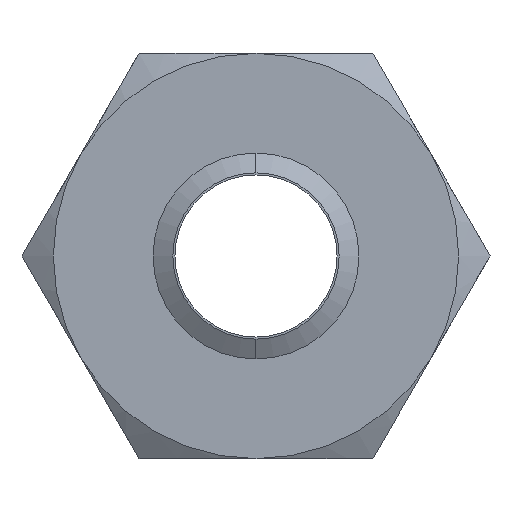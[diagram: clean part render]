
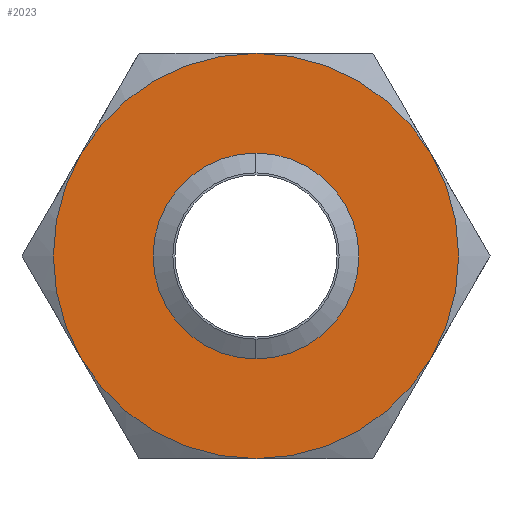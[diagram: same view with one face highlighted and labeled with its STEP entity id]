
A CAD part, front view. The second image highlights one B-rep face of the part: STEP entity #2023.
In plain terms, the highlighted planar face has unit normal (0, -1, 0).
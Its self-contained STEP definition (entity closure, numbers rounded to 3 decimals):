
#51 = VERTEX_POINT ( 'NONE', #436 ) ;
#52 = VERTEX_POINT ( 'NONE', #435 ) ;
#137 = EDGE_CURVE ( 'NONE', #51, #52, #485, .T. ) ;
#435 = CARTESIAN_POINT ( 'NONE',  ( 0., 0., 15.387 ) ) ;
#436 = CARTESIAN_POINT ( 'NONE',  ( 0., 0., -15.387 ) ) ;
#478 = DIRECTION ( 'NONE',  ( 0., 0., -1. ) ) ;
#479 = DIRECTION ( 'NONE',  ( 0., -1., 0. ) ) ;
#480 = CARTESIAN_POINT ( 'NONE',  ( 0., 0., 0. ) ) ;
#481 = AXIS2_PLACEMENT_3D ( 'NONE', #480, #479, #478 ) ;
#485 = CIRCLE ( 'NONE', #481, 15.387 ) ;
#1143 = CARTESIAN_POINT ( 'NONE',  ( 0., 0., 0. ) ) ;
#1165 = DIRECTION ( 'NONE',  ( 0., 0., 1. ) ) ;
#1166 = DIRECTION ( 'NONE',  ( 0., 1., 0. ) ) ;
#1167 = CARTESIAN_POINT ( 'NONE',  ( 0., 0., 0. ) ) ;
#1168 = AXIS2_PLACEMENT_3D ( 'NONE', #1167, #1166, #1165 ) ;
#1169 = CIRCLE ( 'NONE', #1168, 37.5 ) ;
#1184 = DIRECTION ( 'NONE',  ( 0., 0., 1. ) ) ;
#1185 = DIRECTION ( 'NONE',  ( 0., 1., 0. ) ) ;
#1186 = AXIS2_PLACEMENT_3D ( 'NONE', #1143, #1185, #1184 ) ;
#1187 = CIRCLE ( 'NONE', #1186, 37.5 ) ;
#1226 = CARTESIAN_POINT ( 'NONE',  ( 32.476, 0., -18.75 ) ) ;
#1227 = DIRECTION ( 'NONE',  ( 0., 0., 1. ) ) ;
#1228 = DIRECTION ( 'NONE',  ( 0., 1., 0. ) ) ;
#1229 = CARTESIAN_POINT ( 'NONE',  ( 0., 0., 0. ) ) ;
#1230 = AXIS2_PLACEMENT_3D ( 'NONE', #1229, #1228, #1227 ) ;
#1231 = CIRCLE ( 'NONE', #1230, 37.5 ) ;
#1244 = CARTESIAN_POINT ( 'NONE',  ( 0., 0., -37.5 ) ) ;
#1264 = DIRECTION ( 'NONE',  ( 0., 1., 0. ) ) ;
#1265 = AXIS2_PLACEMENT_3D ( 'NONE', #1267, #1264, #1310 ) ;
#1266 = CIRCLE ( 'NONE', #1265, 37.5 ) ;
#1267 = CARTESIAN_POINT ( 'NONE',  ( 0., 0., 0. ) ) ;
#1309 = CARTESIAN_POINT ( 'NONE',  ( -32.476, 0., -18.75 ) ) ;
#1310 = DIRECTION ( 'NONE',  ( 0., 0., 1. ) ) ;
#1369 = DIRECTION ( 'NONE',  ( 0., 0., -1. ) ) ;
#1370 = DIRECTION ( 'NONE',  ( 0., -1., 0. ) ) ;
#1371 = CARTESIAN_POINT ( 'NONE',  ( 0., 0., 0. ) ) ;
#1372 = AXIS2_PLACEMENT_3D ( 'NONE', #1371, #1370, #1369 ) ;
#1373 = CIRCLE ( 'NONE', #1372, 15.387 ) ;
#1374 = CARTESIAN_POINT ( 'NONE',  ( 32.476, 0., 18.75 ) ) ;
#1375 = DIRECTION ( 'NONE',  ( 0., 0., 1. ) ) ;
#1376 = DIRECTION ( 'NONE',  ( 0., 1., 0. ) ) ;
#1377 = CARTESIAN_POINT ( 'NONE',  ( 0., 0., 0. ) ) ;
#1378 = AXIS2_PLACEMENT_3D ( 'NONE', #1377, #1376, #1375 ) ;
#1379 = CIRCLE ( 'NONE', #1378, 37.5 ) ;
#1407 = DIRECTION ( 'NONE',  ( 0., 0., 1. ) ) ;
#1408 = DIRECTION ( 'NONE',  ( 0., 1., 0. ) ) ;
#1409 = CARTESIAN_POINT ( 'NONE',  ( 0., 0., 0. ) ) ;
#1410 = AXIS2_PLACEMENT_3D ( 'NONE', #1409, #1408, #1407 ) ;
#1411 = CIRCLE ( 'NONE', #1410, 37.5 ) ;
#1412 = DIRECTION ( 'NONE',  ( 0., 0., 1. ) ) ;
#1413 = DIRECTION ( 'NONE',  ( 0., 1., 0. ) ) ;
#1414 = CARTESIAN_POINT ( 'NONE',  ( 21.651, 0., -37.5 ) ) ;
#1416 = AXIS2_PLACEMENT_3D ( 'NONE', #1414, #1413, #1412 ) ;
#1417 = PLANE ( 'NONE',  #1416 ) ;
#1418 = FACE_BOUND ( 'NONE', #2010, .T. ) ;
#1419 = FACE_OUTER_BOUND ( 'NONE', #2032, .T. ) ;
#1431 = CARTESIAN_POINT ( 'NONE',  ( 0., 0., 37.5 ) ) ;
#1432 = CARTESIAN_POINT ( 'NONE',  ( -32.476, 0., 18.75 ) ) ;
#1915 = ORIENTED_EDGE ( 'NONE', *, *, #1934, .F. ) ;
#1934 = EDGE_CURVE ( 'NONE', #1973, #2017, #1187, .T. ) ;
#1939 = EDGE_CURVE ( 'NONE', #2017, #2018, #1169, .T. ) ;
#1955 = VERTEX_POINT ( 'NONE', #1244 ) ;
#1957 = EDGE_CURVE ( 'NONE', #1959, #1955, #1231, .T. ) ;
#1958 = ORIENTED_EDGE ( 'NONE', *, *, #1957, .F. ) ;
#1959 = VERTEX_POINT ( 'NONE', #1226 ) ;
#1968 = ORIENTED_EDGE ( 'NONE', *, *, #1972, .F. ) ;
#1972 = EDGE_CURVE ( 'NONE', #1955, #1973, #1266, .T. ) ;
#1973 = VERTEX_POINT ( 'NONE', #1309 ) ;
#2008 = ORIENTED_EDGE ( 'NONE', *, *, #2009, .F. ) ;
#2009 = EDGE_CURVE ( 'NONE', #2015, #1959, #1379, .T. ) ;
#2010 = EDGE_LOOP ( 'NONE', ( #2011, #2012 ) ) ;
#2011 = ORIENTED_EDGE ( 'NONE', *, *, #137, .F. ) ;
#2012 = ORIENTED_EDGE ( 'NONE', *, *, #2013, .F. ) ;
#2013 = EDGE_CURVE ( 'NONE', #52, #51, #1373, .T. ) ;
#2015 = VERTEX_POINT ( 'NONE', #1374 ) ;
#2016 = ORIENTED_EDGE ( 'NONE', *, *, #1939, .F. ) ;
#2017 = VERTEX_POINT ( 'NONE', #1432 ) ;
#2018 = VERTEX_POINT ( 'NONE', #1431 ) ;
#2023 = ADVANCED_FACE ( 'NONE', ( #1419, #1418 ), #1417, .F. ) ;
#2024 = ORIENTED_EDGE ( 'NONE', *, *, #2026, .F. ) ;
#2026 = EDGE_CURVE ( 'NONE', #2018, #2015, #1411, .T. ) ;
#2032 = EDGE_LOOP ( 'NONE', ( #2024, #2016, #1915, #1968, #1958, #2008 ) ) ;
